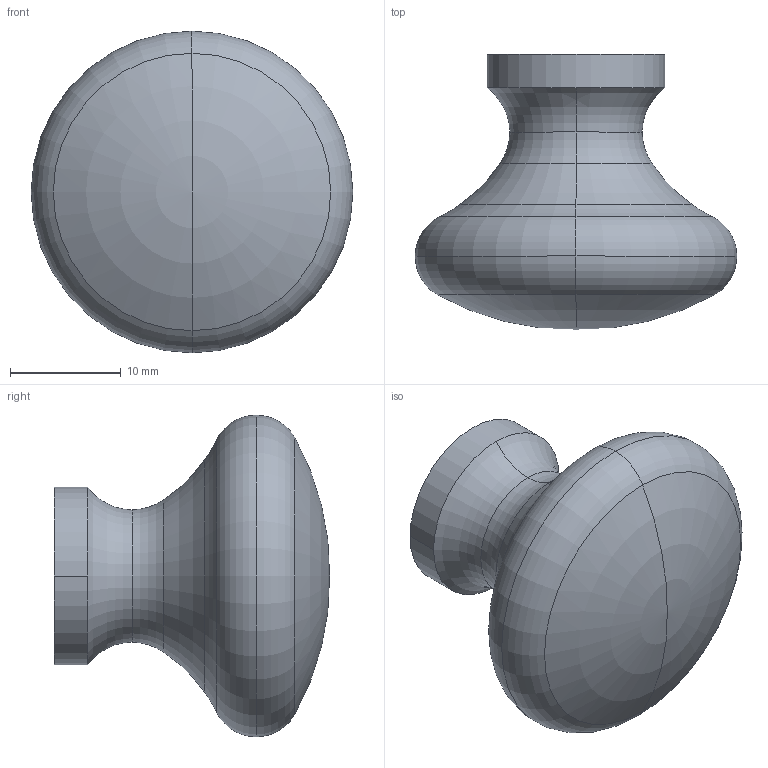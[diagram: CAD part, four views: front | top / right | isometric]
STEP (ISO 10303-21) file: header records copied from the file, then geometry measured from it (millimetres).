
FILE_DESCRIPTION( ( '' ), '1' );
FILE_NAME( 'D:/1.AUTOCAD EXPORT/4.YEAR-2016/11. ProDecor_Handles/PD_2016/9207418.stp', '2016-01-19T08:31:32', ( '' ), ( '' ), ' ', ' ', ' ' );
FILE_SCHEMA( ( 'CONFIG_CONTROL_DESIGN' ) );
Length unit declared in the file: millimetre
Products named in the file (1): 1
Bounding box: 29 x 24.8 x 29 mm (x, y, z)
Volume: 7859.4 mm3; surface area: 2365.1 mm2
Topology: 1 solids, 1 shells, 17 faces, 40 edges, 23 vertices
Faces by surface type: torus 14, cylinder 2, plane 1
Entity records: 536 total; most frequent: DIRECTION 110, CARTESIAN_POINT 79, ORIENTED_EDGE 76, AXIS2_PLACEMENT_3D 54, EDGE_CURVE 38, CIRCLE 36, VERTEX_POINT 23, ADVANCED_FACE 17
